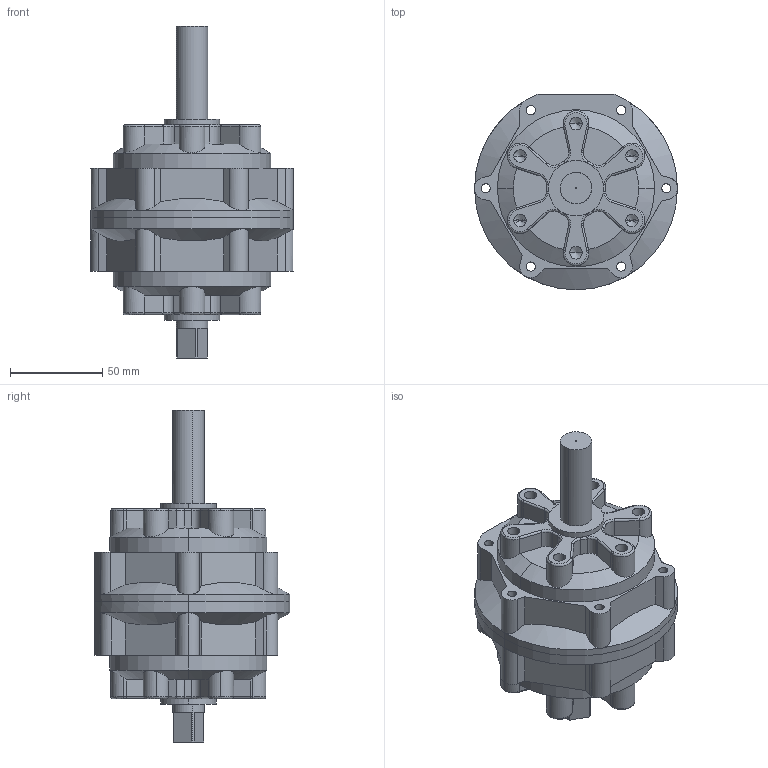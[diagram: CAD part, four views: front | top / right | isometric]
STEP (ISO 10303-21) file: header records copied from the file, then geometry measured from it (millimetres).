
FILE_DESCRIPTION (( 'STEP AP203' ), '1' );
FILE_NAME ('PRN150.STEP', '2016-01-14T16:42:01', ( '' ), ( '' ), 'SwSTEP 2.0', 'SolidWorks 2014', '' );
FILE_SCHEMA (( 'CONFIG_CONTROL_DESIGN' ));
Length unit declared in the file: millimetre
Products named in the file (5): PRN150 (2); PRN150; PRN150 (3); mark-PRN150; PRN150 (1)
Assembly tree (4 placements, depth 2):
  PRN150
    PRN150 (2)
    PRN150 (1)
    PRN150 (3)
    mark-PRN150
Bounding box: 110 x 106.11 x 180 mm (x, y, z)
Volume: 631995.3 mm3; surface area: 96377.7 mm2
Topology: 10 solids, 10 shells, 485 faces, 1242 edges, 772 vertices
Faces by surface type: cylinder 206, plane 172, torus 53, cone 46, bspline 8
Entity records: 16070 total; most frequent: CARTESIAN_POINT 3718, DIRECTION 2555, ORIENTED_EDGE 2428, EDGE_CURVE 1214, AXIS2_PLACEMENT_3D 971, VERTEX_POINT 772, VECTOR 613, LINE 613
